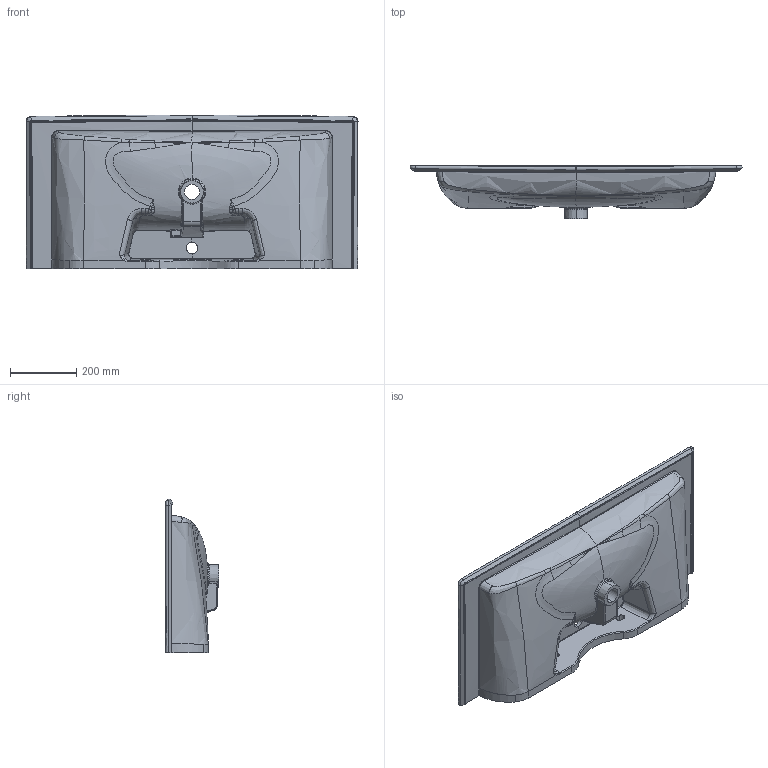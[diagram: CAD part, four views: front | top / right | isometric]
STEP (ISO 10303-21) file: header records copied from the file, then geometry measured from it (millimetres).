
FILE_DESCRIPTION (( 'STEP AP203' ), '1' );
FILE_NAME ('ERÝNE100.STEP', '2023-02-23T13:13:05', ( '' ), ( '' ), 'SwSTEP 2.0', 'SolidWorks 2021', '' );
FILE_SCHEMA (( 'CONFIG_CONTROL_DESIGN' ));
Products named in the file (1): ERÝNE100
Bounding box: 1002.9 x 162.36 x 464.41 mm (x, y, z)
Volume: 18784781 mm3; surface area: 1315800 mm2
Topology: 1 solids, 1 shells, 306 faces, 775 edges, 451 vertices
Faces by surface type: bspline 238, cylinder 32, plane 21, sphere 6, cone 6, torus 3
Entity records: 90302 total; most frequent: CARTESIAN_POINT 84908, ORIENTED_EDGE 1512, EDGE_CURVE 756, DIRECTION 523, B_SPLINE_CURVE_WITH_KNOTS 487, VERTEX_POINT 451, EDGE_LOOP 313, ADVANCED_FACE 306
